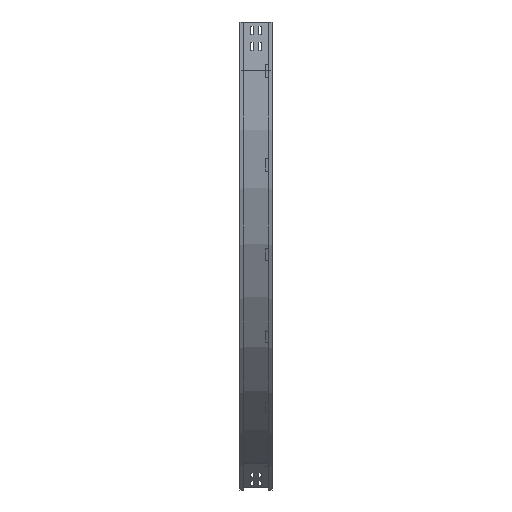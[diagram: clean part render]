
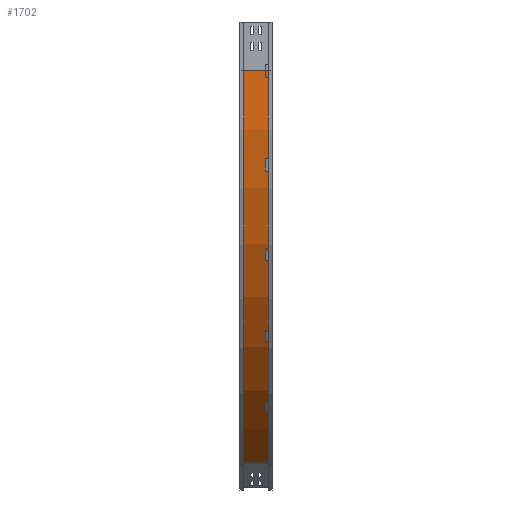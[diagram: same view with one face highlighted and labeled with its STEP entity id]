
A CAD part, left-side view. The second image highlights one B-rep face of the part: STEP entity #1702.
In plain terms, the highlighted cylindrical face has radius 1400 mm (diameter 2800 mm), a partial arc.
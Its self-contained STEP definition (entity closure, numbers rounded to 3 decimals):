
#128 = VERTEX_POINT ( 'NONE', #1447 ) ;
#270 = DIRECTION ( 'NONE',  ( 0., -1., 0. ) ) ;
#327 = CIRCLE ( 'NONE', #2884, 1400. ) ;
#350 = CARTESIAN_POINT ( 'NONE',  ( 1409., 88., -150. ) ) ;
#457 = DIRECTION ( 'NONE',  ( 0., -1., 0. ) ) ;
#537 = CIRCLE ( 'NONE', #2576, 1400. ) ;
#604 = EDGE_CURVE ( 'NONE', #796, #2113, #2721, .T. ) ;
#694 = DIRECTION ( 'NONE',  ( -1., 0., 0. ) ) ;
#731 = CARTESIAN_POINT ( 'NONE',  ( 709., 88., -1362.436 ) ) ;
#796 = VERTEX_POINT ( 'NONE', #1430 ) ;
#1039 = VERTEX_POINT ( 'NONE', #731 ) ;
#1171 = AXIS2_PLACEMENT_3D ( 'NONE', #2562, #2517, #3243 ) ;
#1229 = VECTOR ( 'NONE', #2698, 1000. ) ;
#1430 = CARTESIAN_POINT ( 'NONE',  ( 9., 88., -150. ) ) ;
#1447 = CARTESIAN_POINT ( 'NONE',  ( 709., 12., -1362.436 ) ) ;
#1457 = CARTESIAN_POINT ( 'NONE',  ( 1409., 12., -150. ) ) ;
#1474 = ORIENTED_EDGE ( 'NONE', *, *, #4527, .F. ) ;
#1532 = EDGE_LOOP ( 'NONE', ( #1474, #4443, #2931, #2891 ) ) ;
#1650 = CARTESIAN_POINT ( 'NONE',  ( 709., 12., -1362.436 ) ) ;
#1702 = ADVANCED_FACE ( 'NONE', ( #2772 ), #4163, .T. ) ;
#2078 = DIRECTION ( 'NONE',  ( 0., -1., 0. ) ) ;
#2113 = VERTEX_POINT ( 'NONE', #2879 ) ;
#2301 = CARTESIAN_POINT ( 'NONE',  ( 9., 12., -150. ) ) ;
#2336 = VECTOR ( 'NONE', #270, 1000. ) ;
#2517 = DIRECTION ( 'NONE',  ( 0., -1., 0. ) ) ;
#2562 = CARTESIAN_POINT ( 'NONE',  ( 1409., 0., -150. ) ) ;
#2576 = AXIS2_PLACEMENT_3D ( 'NONE', #1457, #457, #3214 ) ;
#2629 = LINE ( 'NONE', #1650, #1229 ) ;
#2698 = DIRECTION ( 'NONE',  ( 0., -1., 0. ) ) ;
#2721 = LINE ( 'NONE', #2301, #2336 ) ;
#2735 = EDGE_CURVE ( 'NONE', #796, #1039, #327, .T. ) ;
#2772 = FACE_OUTER_BOUND ( 'NONE', #1532, .T. ) ;
#2879 = CARTESIAN_POINT ( 'NONE',  ( 9., 12., -150. ) ) ;
#2884 = AXIS2_PLACEMENT_3D ( 'NONE', #350, #2078, #694 ) ;
#2891 = ORIENTED_EDGE ( 'NONE', *, *, #3068, .T. ) ;
#2931 = ORIENTED_EDGE ( 'NONE', *, *, #2735, .T. ) ;
#3068 = EDGE_CURVE ( 'NONE', #1039, #128, #2629, .T. ) ;
#3214 = DIRECTION ( 'NONE',  ( -1., 0., 0. ) ) ;
#3243 = DIRECTION ( 'NONE',  ( 0., 0., -1. ) ) ;
#4163 = CYLINDRICAL_SURFACE ( 'NONE', #1171, 1400. ) ;
#4443 = ORIENTED_EDGE ( 'NONE', *, *, #604, .F. ) ;
#4527 = EDGE_CURVE ( 'NONE', #2113, #128, #537, .T. ) ;
